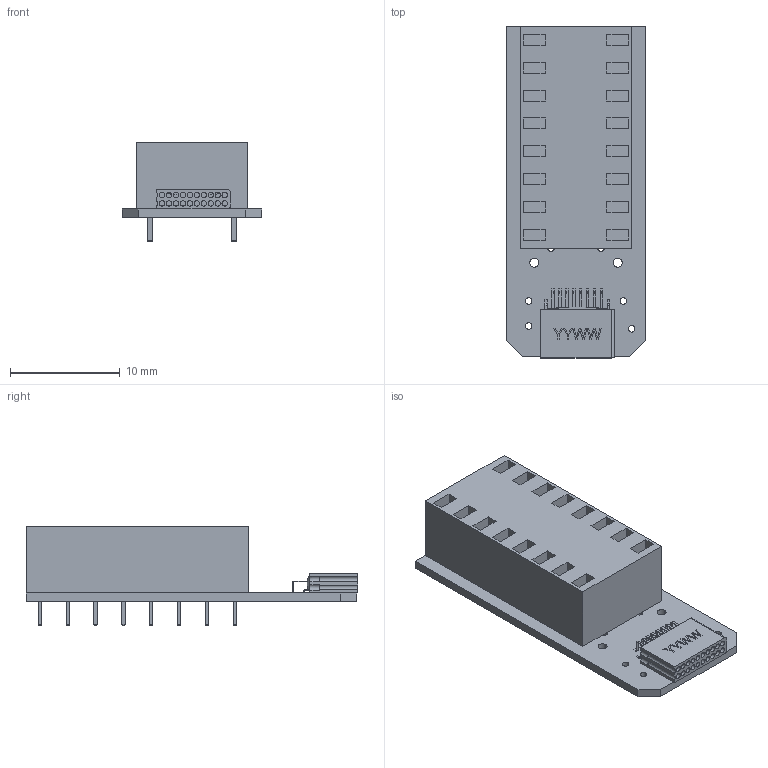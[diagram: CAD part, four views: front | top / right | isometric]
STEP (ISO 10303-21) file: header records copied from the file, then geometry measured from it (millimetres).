
FILE_DESCRIPTION (( 'STEP AP214' ), '1' );
FILE_NAME ('Electrode_Adapter_18pin_socket.STEP', '2022-03-21T18:54:21', ( '' ), ( '' ), 'SwSTEP 2.0', 'SolidWorks 2022', '' );
FILE_SCHEMA (( 'AUTOMOTIVE_DESIGN' ));
Length unit declared in the file: inch
Products named in the file (4): Electrode_Adapter_18pin_PCB; A79040-001; DIP16_Socket; Electrode_Adapter_18pin_socket
Assembly tree (3 placements, depth 2):
  Electrode_Adapter_18pin_socket
    Electrode_Adapter_18pin_PCB
    A79040-001
    DIP16_Socket
Bounding box: 12.7 x 30.29 x 9.1 mm (x, y, z)
Volume: 1494.5 mm3; surface area: 2269.2 mm2
Topology: 3 solids, 3 shells, 727 faces, 1824 edges, 1189 vertices
Faces by surface type: plane 421, cylinder 286, bspline 20
Entity records: 27736 total; most frequent: CARTESIAN_POINT 4613, ORIENTED_EDGE 3640, DIRECTION 3596, EDGE_CURVE 1820, LINE 1222, VECTOR 1222, VERTEX_POINT 1189, AXIS2_PLACEMENT_3D 1187
